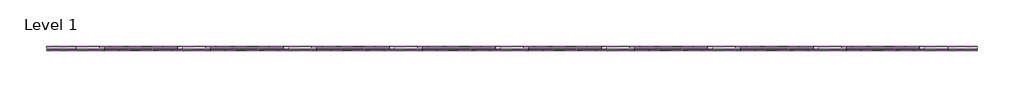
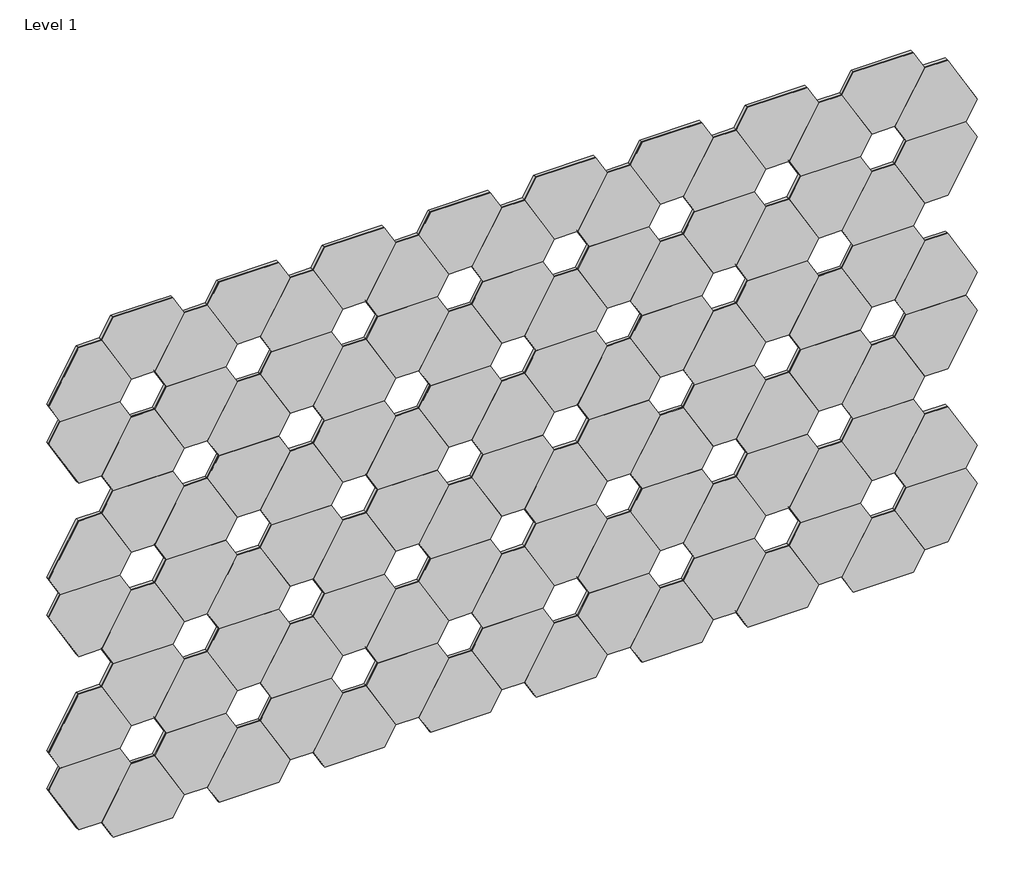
# One storey: 102 proxies.
"""IFC4 building model written with IfcOpenShell, lengths in millimetres."""

from ifc_helpers import new_model, si_unit, origin, place, context, project, spatial, transform, mapped, element, save
from components import aro_block_2_8349c359

model = new_model("IFC4")

# Units and contexts
model_context = context("Model", 3, world=origin())
ifc_project = project(units=[si_unit("LENGTHUNIT", "METRE", prefix="MILLI")], contexts=[model_context])

# Site, building, storey
site = spatial("IfcSite", under=ifc_project)
building = spatial("IfcBuilding", under=site)
storey = spatial("IfcBuildingStorey", under=building, Name="Level 1", Elevation=0.0)

# Proxies
placement = place(None, origin())
aro_block_2_shape = aro_block_2_8349c359(model_context)
element("IfcBuildingElementProxy", 1, Name="FilzFelt_ARO_Block 2 : ARO Block 2", ObjectType="FilzFelt_ARO_Block 2 : ARO Block 2", at=placement, inside=storey, context=model_context, shape_type="MappedRepresentation", body=[
    mapped(aro_block_2_shape, transform((-13791.0652095, -3152.3339335, 834.4368478), x_axis=(-1.0, 0.0, 0.0), y_axis=(0.0, 0.0, -1.0), z_axis=(0.0, -1.0, 0.0))),
])
element("IfcBuildingElementProxy", 2, Name="FilzFelt_ARO_Block 2 : ARO Block 2", ObjectType="FilzFelt_ARO_Block 2 : ARO Block 2", at=placement, inside=storey, context=model_context, shape_type="MappedRepresentation", body=[
    mapped(aro_block_2_shape, transform((-13617.4823723, -3152.3339335, 1135.0911412), x_axis=(-1.0, 0.0, 0.0), y_axis=(0.0, 0.0, -1.0), z_axis=(0.0, -1.0, 0.0))),
])
element("IfcBuildingElementProxy", 3, Name="FilzFelt_ARO_Block 2 : ARO Block 2", ObjectType="FilzFelt_ARO_Block 2 : ARO Block 2", at=placement, inside=storey, context=model_context, shape_type="MappedRepresentation", body=[
    mapped(aro_block_2_shape, transform((-13443.899535, -3152.3339335, 834.4368478), x_axis=(-1.0, 0.0, 0.0), y_axis=(0.0, 0.0, -1.0), z_axis=(0.0, -1.0, 0.0))),
])
element("IfcBuildingElementProxy", 4, Name="FilzFelt_ARO_Block 2 : ARO Block 2", ObjectType="FilzFelt_ARO_Block 2 : ARO Block 2", at=placement, inside=storey, context=model_context, shape_type="MappedRepresentation", body=[
    mapped(aro_block_2_shape, transform((-13270.3166978, -3152.3339335, 1135.0911412), x_axis=(-1.0, 0.0, 0.0), y_axis=(0.0, 0.0, -1.0), z_axis=(0.0, -1.0, 0.0))),
])
element("IfcBuildingElementProxy", 5, Name="FilzFelt_ARO_Block 2 : ARO Block 2", ObjectType="FilzFelt_ARO_Block 2 : ARO Block 2", at=placement, inside=storey, context=model_context, shape_type="MappedRepresentation", body=[
    mapped(aro_block_2_shape, transform((-13443.899535, -3152.3339335, 1435.7454346), x_axis=(-1.0, 0.0, 0.0), y_axis=(0.0, 0.0, -1.0), z_axis=(0.0, -1.0, 0.0))),
])
element("IfcBuildingElementProxy", 6, Name="FilzFelt_ARO_Block 2 : ARO Block 2", ObjectType="FilzFelt_ARO_Block 2 : ARO Block 2", at=placement, inside=storey, context=model_context, shape_type="MappedRepresentation", body=[
    mapped(aro_block_2_shape, transform((-13791.0652095, -3152.3339335, 1435.7454346), x_axis=(-1.0, 0.0, 0.0), y_axis=(0.0, 0.0, -1.0), z_axis=(0.0, -1.0, 0.0))),
])
element("IfcBuildingElementProxy", 7, Name="FilzFelt_ARO_Block 2 : ARO Block 2", ObjectType="FilzFelt_ARO_Block 2 : ARO Block 2", at=placement, inside=storey, context=model_context, shape_type="MappedRepresentation", body=[
    mapped(aro_block_2_shape, transform((-13617.4823723, -3152.3339335, 1736.3997281), x_axis=(-1.0, 0.0, 0.0), y_axis=(0.0, 0.0, -1.0), z_axis=(0.0, -1.0, 0.0))),
])
element("IfcBuildingElementProxy", 8, Name="FilzFelt_ARO_Block 2 : ARO Block 2", ObjectType="FilzFelt_ARO_Block 2 : ARO Block 2", at=placement, inside=storey, context=model_context, shape_type="MappedRepresentation", body=[
    mapped(aro_block_2_shape, transform((-13270.3166978, -3152.3339335, 1736.3997281), x_axis=(-1.0, 0.0, 0.0), y_axis=(0.0, 0.0, -1.0), z_axis=(0.0, -1.0, 0.0))),
])
element("IfcBuildingElementProxy", 9, Name="FilzFelt_ARO_Block 2 : ARO Block 2", ObjectType="FilzFelt_ARO_Block 2 : ARO Block 2", at=placement, inside=storey, context=model_context, shape_type="MappedRepresentation", body=[
    mapped(aro_block_2_shape, transform((-13791.0652095, -3152.3339335, 2037.0540215), x_axis=(-1.0, 0.0, 0.0), y_axis=(0.0, 0.0, -1.0), z_axis=(0.0, -1.0, 0.0))),
])
element("IfcBuildingElementProxy", 10, Name="FilzFelt_ARO_Block 2 : ARO Block 2", ObjectType="FilzFelt_ARO_Block 2 : ARO Block 2", at=placement, inside=storey, context=model_context, shape_type="MappedRepresentation", body=[
    mapped(aro_block_2_shape, transform((-13617.4823723, -3152.3339335, 2337.7083149), x_axis=(-1.0, 0.0, 0.0), y_axis=(0.0, 0.0, -1.0), z_axis=(0.0, -1.0, 0.0))),
])
element("IfcBuildingElementProxy", 11, Name="FilzFelt_ARO_Block 2 : ARO Block 2", ObjectType="FilzFelt_ARO_Block 2 : ARO Block 2", at=placement, inside=storey, context=model_context, shape_type="MappedRepresentation", body=[
    mapped(aro_block_2_shape, transform((-13443.899535, -3152.3339335, 2037.0540215), x_axis=(-1.0, 0.0, 0.0), y_axis=(0.0, 0.0, -1.0), z_axis=(0.0, -1.0, 0.0))),
])
element("IfcBuildingElementProxy", 12, Name="FilzFelt_ARO_Block 2 : ARO Block 2", ObjectType="FilzFelt_ARO_Block 2 : ARO Block 2", at=placement, inside=storey, context=model_context, shape_type="MappedRepresentation", body=[
    mapped(aro_block_2_shape, transform((-13270.3166978, -3152.3339335, 2337.7083149), x_axis=(-1.0, 0.0, 0.0), y_axis=(0.0, 0.0, -1.0), z_axis=(0.0, -1.0, 0.0))),
])
element("IfcBuildingElementProxy", 13, Name="FilzFelt_ARO_Block 2 : ARO Block 2", ObjectType="FilzFelt_ARO_Block 2 : ARO Block 2", at=placement, inside=storey, context=model_context, shape_type="MappedRepresentation", body=[
    mapped(aro_block_2_shape, transform((-13096.7338606, -3152.3339335, 1435.7454346), x_axis=(-1.0, 0.0, 0.0), y_axis=(0.0, 0.0, -1.0), z_axis=(0.0, -1.0, 0.0))),
])
element("IfcBuildingElementProxy", 14, Name="FilzFelt_ARO_Block 2 : ARO Block 2", ObjectType="FilzFelt_ARO_Block 2 : ARO Block 2", at=placement, inside=storey, context=model_context, shape_type="MappedRepresentation", body=[
    mapped(aro_block_2_shape, transform((-13096.7338606, -3152.3339335, 2037.0540215), x_axis=(-1.0, 0.0, 0.0), y_axis=(0.0, 0.0, -1.0), z_axis=(0.0, -1.0, 0.0))),
])
element("IfcBuildingElementProxy", 15, Name="FilzFelt_ARO_Block 2 : ARO Block 2", ObjectType="FilzFelt_ARO_Block 2 : ARO Block 2", at=placement, inside=storey, context=model_context, shape_type="MappedRepresentation", body=[
    mapped(aro_block_2_shape, transform((-13096.7338606, -3152.3339335, 834.4368478), x_axis=(-1.0, 0.0, 0.0), y_axis=(0.0, 0.0, -1.0), z_axis=(0.0, -1.0, 0.0))),
])
element("IfcBuildingElementProxy", 16, Name="FilzFelt_ARO_Block 2 : ARO Block 2", ObjectType="FilzFelt_ARO_Block 2 : ARO Block 2", at=placement, inside=storey, context=model_context, shape_type="MappedRepresentation", body=[
    mapped(aro_block_2_shape, transform((-12923.1510233, -3152.3339335, 2337.7083149), x_axis=(-1.0, 0.0, 0.0), y_axis=(0.0, 0.0, -1.0), z_axis=(0.0, -1.0, 0.0))),
])
element("IfcBuildingElementProxy", 17, Name="FilzFelt_ARO_Block 2 : ARO Block 2", ObjectType="FilzFelt_ARO_Block 2 : ARO Block 2", at=placement, inside=storey, context=model_context, shape_type="MappedRepresentation", body=[
    mapped(aro_block_2_shape, transform((-12749.5681861, -3152.3339335, 2037.0540215), x_axis=(-1.0, 0.0, 0.0), y_axis=(0.0, 0.0, -1.0), z_axis=(0.0, -1.0, 0.0))),
])
element("IfcBuildingElementProxy", 18, Name="FilzFelt_ARO_Block 2 : ARO Block 2", ObjectType="FilzFelt_ARO_Block 2 : ARO Block 2", at=placement, inside=storey, context=model_context, shape_type="MappedRepresentation", body=[
    mapped(aro_block_2_shape, transform((-12923.1510233, -3152.3339335, 1736.3997281), x_axis=(-1.0, 0.0, 0.0), y_axis=(0.0, 0.0, -1.0), z_axis=(0.0, -1.0, 0.0))),
])
element("IfcBuildingElementProxy", 19, Name="FilzFelt_ARO_Block 2 : ARO Block 2", ObjectType="FilzFelt_ARO_Block 2 : ARO Block 2", at=placement, inside=storey, context=model_context, shape_type="MappedRepresentation", body=[
    mapped(aro_block_2_shape, transform((-12749.5681861, -3152.3339335, 1435.7454346), x_axis=(-1.0, 0.0, 0.0), y_axis=(0.0, 0.0, -1.0), z_axis=(0.0, -1.0, 0.0))),
])
element("IfcBuildingElementProxy", 20, Name="FilzFelt_ARO_Block 2 : ARO Block 2", ObjectType="FilzFelt_ARO_Block 2 : ARO Block 2", at=placement, inside=storey, context=model_context, shape_type="MappedRepresentation", body=[
    mapped(aro_block_2_shape, transform((-12923.1510233, -3152.3339335, 1135.0911412), x_axis=(-1.0, 0.0, 0.0), y_axis=(0.0, 0.0, -1.0), z_axis=(0.0, -1.0, 0.0))),
])
element("IfcBuildingElementProxy", 21, Name="FilzFelt_ARO_Block 2 : ARO Block 2", ObjectType="FilzFelt_ARO_Block 2 : ARO Block 2", at=placement, inside=storey, context=model_context, shape_type="MappedRepresentation", body=[
    mapped(aro_block_2_shape, transform((-12749.5681861, -3152.3339335, 834.4368478), x_axis=(-1.0, 0.0, 0.0), y_axis=(0.0, 0.0, -1.0), z_axis=(0.0, -1.0, 0.0))),
])
element("IfcBuildingElementProxy", 22, Name="FilzFelt_ARO_Block 2 : ARO Block 2", ObjectType="FilzFelt_ARO_Block 2 : ARO Block 2", at=placement, inside=storey, context=model_context, shape_type="MappedRepresentation", body=[
    mapped(aro_block_2_shape, transform((-12575.9853489, -3152.3339335, 1135.0911412), x_axis=(-1.0, 0.0, 0.0), y_axis=(0.0, 0.0, -1.0), z_axis=(0.0, -1.0, 0.0))),
])
element("IfcBuildingElementProxy", 23, Name="FilzFelt_ARO_Block 2 : ARO Block 2", ObjectType="FilzFelt_ARO_Block 2 : ARO Block 2", at=placement, inside=storey, context=model_context, shape_type="MappedRepresentation", body=[
    mapped(aro_block_2_shape, transform((-12575.9853489, -3152.3339335, 1736.3997281), x_axis=(-1.0, 0.0, 0.0), y_axis=(0.0, 0.0, -1.0), z_axis=(0.0, -1.0, 0.0))),
])
element("IfcBuildingElementProxy", 24, Name="FilzFelt_ARO_Block 2 : ARO Block 2", ObjectType="FilzFelt_ARO_Block 2 : ARO Block 2", at=placement, inside=storey, context=model_context, shape_type="MappedRepresentation", body=[
    mapped(aro_block_2_shape, transform((-12575.9853489, -3152.3339335, 2337.7083149), x_axis=(-1.0, 0.0, 0.0), y_axis=(0.0, 0.0, -1.0), z_axis=(0.0, -1.0, 0.0))),
])
element("IfcBuildingElementProxy", 25, Name="FilzFelt_ARO_Block 2 : ARO Block 2", ObjectType="FilzFelt_ARO_Block 2 : ARO Block 2", at=placement, inside=storey, context=model_context, shape_type="MappedRepresentation", body=[
    mapped(aro_block_2_shape, transform((-12402.4025116, -3152.3339335, 834.4368478), x_axis=(-1.0, 0.0, 0.0), y_axis=(0.0, 0.0, -1.0), z_axis=(0.0, -1.0, 0.0))),
])
element("IfcBuildingElementProxy", 26, Name="FilzFelt_ARO_Block 2 : ARO Block 2", ObjectType="FilzFelt_ARO_Block 2 : ARO Block 2", at=placement, inside=storey, context=model_context, shape_type="MappedRepresentation", body=[
    mapped(aro_block_2_shape, transform((-12228.8196744, -3152.3339335, 1135.0911412), x_axis=(-1.0, 0.0, 0.0), y_axis=(0.0, 0.0, -1.0), z_axis=(0.0, -1.0, 0.0))),
])
element("IfcBuildingElementProxy", 27, Name="FilzFelt_ARO_Block 2 : ARO Block 2", ObjectType="FilzFelt_ARO_Block 2 : ARO Block 2", at=placement, inside=storey, context=model_context, shape_type="MappedRepresentation", body=[
    mapped(aro_block_2_shape, transform((-12055.2368371, -3152.3339335, 834.4368478), x_axis=(-1.0, 0.0, 0.0), y_axis=(0.0, 0.0, -1.0), z_axis=(0.0, -1.0, 0.0))),
])
element("IfcBuildingElementProxy", 28, Name="FilzFelt_ARO_Block 2 : ARO Block 2", ObjectType="FilzFelt_ARO_Block 2 : ARO Block 2", at=placement, inside=storey, context=model_context, shape_type="MappedRepresentation", body=[
    mapped(aro_block_2_shape, transform((-11881.6539999, -3152.3339335, 1135.0911412), x_axis=(-1.0, 0.0, 0.0), y_axis=(0.0, 0.0, -1.0), z_axis=(0.0, -1.0, 0.0))),
])
element("IfcBuildingElementProxy", 29, Name="FilzFelt_ARO_Block 2 : ARO Block 2", ObjectType="FilzFelt_ARO_Block 2 : ARO Block 2", at=placement, inside=storey, context=model_context, shape_type="MappedRepresentation", body=[
    mapped(aro_block_2_shape, transform((-12055.2368371, -3152.3339335, 1435.7454346), x_axis=(-1.0, 0.0, 0.0), y_axis=(0.0, 0.0, -1.0), z_axis=(0.0, -1.0, 0.0))),
])
element("IfcBuildingElementProxy", 30, Name="FilzFelt_ARO_Block 2 : ARO Block 2", ObjectType="FilzFelt_ARO_Block 2 : ARO Block 2", at=placement, inside=storey, context=model_context, shape_type="MappedRepresentation", body=[
    mapped(aro_block_2_shape, transform((-12402.4025116, -3152.3339335, 1435.7454346), x_axis=(-1.0, 0.0, 0.0), y_axis=(0.0, 0.0, -1.0), z_axis=(0.0, -1.0, 0.0))),
])
element("IfcBuildingElementProxy", 31, Name="FilzFelt_ARO_Block 2 : ARO Block 2", ObjectType="FilzFelt_ARO_Block 2 : ARO Block 2", at=placement, inside=storey, context=model_context, shape_type="MappedRepresentation", body=[
    mapped(aro_block_2_shape, transform((-12228.8196744, -3152.3339335, 1736.3997281), x_axis=(-1.0, 0.0, 0.0), y_axis=(0.0, 0.0, -1.0), z_axis=(0.0, -1.0, 0.0))),
])
element("IfcBuildingElementProxy", 32, Name="FilzFelt_ARO_Block 2 : ARO Block 2", ObjectType="FilzFelt_ARO_Block 2 : ARO Block 2", at=placement, inside=storey, context=model_context, shape_type="MappedRepresentation", body=[
    mapped(aro_block_2_shape, transform((-11881.6539999, -3152.3339335, 1736.3997281), x_axis=(-1.0, 0.0, 0.0), y_axis=(0.0, 0.0, -1.0), z_axis=(0.0, -1.0, 0.0))),
])
element("IfcBuildingElementProxy", 33, Name="FilzFelt_ARO_Block 2 : ARO Block 2", ObjectType="FilzFelt_ARO_Block 2 : ARO Block 2", at=placement, inside=storey, context=model_context, shape_type="MappedRepresentation", body=[
    mapped(aro_block_2_shape, transform((-12402.4025116, -3152.3339335, 2037.0540215), x_axis=(-1.0, 0.0, 0.0), y_axis=(0.0, 0.0, -1.0), z_axis=(0.0, -1.0, 0.0))),
])
element("IfcBuildingElementProxy", 34, Name="FilzFelt_ARO_Block 2 : ARO Block 2", ObjectType="FilzFelt_ARO_Block 2 : ARO Block 2", at=placement, inside=storey, context=model_context, shape_type="MappedRepresentation", body=[
    mapped(aro_block_2_shape, transform((-12228.8196744, -3152.3339335, 2337.7083149), x_axis=(-1.0, 0.0, 0.0), y_axis=(0.0, 0.0, -1.0), z_axis=(0.0, -1.0, 0.0))),
])
element("IfcBuildingElementProxy", 35, Name="FilzFelt_ARO_Block 2 : ARO Block 2", ObjectType="FilzFelt_ARO_Block 2 : ARO Block 2", at=placement, inside=storey, context=model_context, shape_type="MappedRepresentation", body=[
    mapped(aro_block_2_shape, transform((-12055.2368371, -3152.3339335, 2037.0540215), x_axis=(-1.0, 0.0, 0.0), y_axis=(0.0, 0.0, -1.0), z_axis=(0.0, -1.0, 0.0))),
])
element("IfcBuildingElementProxy", 36, Name="FilzFelt_ARO_Block 2 : ARO Block 2", ObjectType="FilzFelt_ARO_Block 2 : ARO Block 2", at=placement, inside=storey, context=model_context, shape_type="MappedRepresentation", body=[
    mapped(aro_block_2_shape, transform((-11881.6539999, -3152.3339335, 2337.7083149), x_axis=(-1.0, 0.0, 0.0), y_axis=(0.0, 0.0, -1.0), z_axis=(0.0, -1.0, 0.0))),
])
element("IfcBuildingElementProxy", 37, Name="FilzFelt_ARO_Block 2 : ARO Block 2", ObjectType="FilzFelt_ARO_Block 2 : ARO Block 2", at=placement, inside=storey, context=model_context, shape_type="MappedRepresentation", body=[
    mapped(aro_block_2_shape, transform((-11708.0711627, -3152.3339335, 1435.7454346), x_axis=(-1.0, 0.0, 0.0), y_axis=(0.0, 0.0, -1.0), z_axis=(0.0, -1.0, 0.0))),
])
element("IfcBuildingElementProxy", 38, Name="FilzFelt_ARO_Block 2 : ARO Block 2", ObjectType="FilzFelt_ARO_Block 2 : ARO Block 2", at=placement, inside=storey, context=model_context, shape_type="MappedRepresentation", body=[
    mapped(aro_block_2_shape, transform((-11708.0711627, -3152.3339335, 2037.0540215), x_axis=(-1.0, 0.0, 0.0), y_axis=(0.0, 0.0, -1.0), z_axis=(0.0, -1.0, 0.0))),
])
element("IfcBuildingElementProxy", 39, Name="FilzFelt_ARO_Block 2 : ARO Block 2", ObjectType="FilzFelt_ARO_Block 2 : ARO Block 2", at=placement, inside=storey, context=model_context, shape_type="MappedRepresentation", body=[
    mapped(aro_block_2_shape, transform((-11708.0711627, -3152.3339335, 834.4368478), x_axis=(-1.0, 0.0, 0.0), y_axis=(0.0, 0.0, -1.0), z_axis=(0.0, -1.0, 0.0))),
])
element("IfcBuildingElementProxy", 40, Name="FilzFelt_ARO_Block 2 : ARO Block 2", ObjectType="FilzFelt_ARO_Block 2 : ARO Block 2", at=placement, inside=storey, context=model_context, shape_type="MappedRepresentation", body=[
    mapped(aro_block_2_shape, transform((-11534.4883254, -3152.3339335, 2337.7083149), x_axis=(-1.0, 0.0, 0.0), y_axis=(0.0, 0.0, -1.0), z_axis=(0.0, -1.0, 0.0))),
])
element("IfcBuildingElementProxy", 41, Name="FilzFelt_ARO_Block 2 : ARO Block 2", ObjectType="FilzFelt_ARO_Block 2 : ARO Block 2", at=placement, inside=storey, context=model_context, shape_type="MappedRepresentation", body=[
    mapped(aro_block_2_shape, transform((-11360.9054882, -3152.3339335, 2037.0540215), x_axis=(-1.0, 0.0, 0.0), y_axis=(0.0, 0.0, -1.0), z_axis=(0.0, -1.0, 0.0))),
])
element("IfcBuildingElementProxy", 42, Name="FilzFelt_ARO_Block 2 : ARO Block 2", ObjectType="FilzFelt_ARO_Block 2 : ARO Block 2", at=placement, inside=storey, context=model_context, shape_type="MappedRepresentation", body=[
    mapped(aro_block_2_shape, transform((-11534.4883254, -3152.3339335, 1736.3997281), x_axis=(-1.0, 0.0, 0.0), y_axis=(0.0, 0.0, -1.0), z_axis=(0.0, -1.0, 0.0))),
])
element("IfcBuildingElementProxy", 43, Name="FilzFelt_ARO_Block 2 : ARO Block 2", ObjectType="FilzFelt_ARO_Block 2 : ARO Block 2", at=placement, inside=storey, context=model_context, shape_type="MappedRepresentation", body=[
    mapped(aro_block_2_shape, transform((-11360.9054882, -3152.3339335, 1435.7454346), x_axis=(-1.0, 0.0, 0.0), y_axis=(0.0, 0.0, -1.0), z_axis=(0.0, -1.0, 0.0))),
])
element("IfcBuildingElementProxy", 44, Name="FilzFelt_ARO_Block 2 : ARO Block 2", ObjectType="FilzFelt_ARO_Block 2 : ARO Block 2", at=placement, inside=storey, context=model_context, shape_type="MappedRepresentation", body=[
    mapped(aro_block_2_shape, transform((-11534.4883254, -3152.3339335, 1135.0911412), x_axis=(-1.0, 0.0, 0.0), y_axis=(0.0, 0.0, -1.0), z_axis=(0.0, -1.0, 0.0))),
])
element("IfcBuildingElementProxy", 45, Name="FilzFelt_ARO_Block 2 : ARO Block 2", ObjectType="FilzFelt_ARO_Block 2 : ARO Block 2", at=placement, inside=storey, context=model_context, shape_type="MappedRepresentation", body=[
    mapped(aro_block_2_shape, transform((-11360.9054882, -3152.3339335, 834.4368478), x_axis=(-1.0, 0.0, 0.0), y_axis=(0.0, 0.0, -1.0), z_axis=(0.0, -1.0, 0.0))),
])
element("IfcBuildingElementProxy", 46, Name="FilzFelt_ARO_Block 2 : ARO Block 2", ObjectType="FilzFelt_ARO_Block 2 : ARO Block 2", at=placement, inside=storey, context=model_context, shape_type="MappedRepresentation", body=[
    mapped(aro_block_2_shape, transform((-11187.3226509, -3152.3339335, 1135.0911412), x_axis=(-1.0, 0.0, 0.0), y_axis=(0.0, 0.0, -1.0), z_axis=(0.0, -1.0, 0.0))),
])
element("IfcBuildingElementProxy", 47, Name="FilzFelt_ARO_Block 2 : ARO Block 2", ObjectType="FilzFelt_ARO_Block 2 : ARO Block 2", at=placement, inside=storey, context=model_context, shape_type="MappedRepresentation", body=[
    mapped(aro_block_2_shape, transform((-11187.3226509, -3152.3339335, 1736.3997281), x_axis=(-1.0, 0.0, 0.0), y_axis=(0.0, 0.0, -1.0), z_axis=(0.0, -1.0, 0.0))),
])
element("IfcBuildingElementProxy", 48, Name="FilzFelt_ARO_Block 2 : ARO Block 2", ObjectType="FilzFelt_ARO_Block 2 : ARO Block 2", at=placement, inside=storey, context=model_context, shape_type="MappedRepresentation", body=[
    mapped(aro_block_2_shape, transform((-11187.3226509, -3152.3339335, 2337.7083149), x_axis=(-1.0, 0.0, 0.0), y_axis=(0.0, 0.0, -1.0), z_axis=(0.0, -1.0, 0.0))),
])
element("IfcBuildingElementProxy", 49, Name="FilzFelt_ARO_Block 2 : ARO Block 2", ObjectType="FilzFelt_ARO_Block 2 : ARO Block 2", at=placement, inside=storey, context=model_context, shape_type="MappedRepresentation", body=[
    mapped(aro_block_2_shape, transform((-11013.7398137, -3152.3339335, 2037.0540215), x_axis=(-1.0, 0.0, 0.0), y_axis=(0.0, 0.0, -1.0), z_axis=(0.0, -1.0, 0.0))),
])
element("IfcBuildingElementProxy", 50, Name="FilzFelt_ARO_Block 2 : ARO Block 2", ObjectType="FilzFelt_ARO_Block 2 : ARO Block 2", at=placement, inside=storey, context=model_context, shape_type="MappedRepresentation", body=[
    mapped(aro_block_2_shape, transform((-11013.7398137, -3152.3339335, 1435.7454346), x_axis=(-1.0, 0.0, 0.0), y_axis=(0.0, 0.0, -1.0), z_axis=(0.0, -1.0, 0.0))),
])
element("IfcBuildingElementProxy", 51, Name="FilzFelt_ARO_Block 2 : ARO Block 2", ObjectType="FilzFelt_ARO_Block 2 : ARO Block 2", at=placement, inside=storey, context=model_context, shape_type="MappedRepresentation", body=[
    mapped(aro_block_2_shape, transform((-11013.7398137, -3152.3339335, 834.4368478), x_axis=(-1.0, 0.0, 0.0), y_axis=(0.0, 0.0, -1.0), z_axis=(0.0, -1.0, 0.0))),
])
element("IfcBuildingElementProxy", 52, Name="FilzFelt_ARO_Block 2 : ARO Block 2", ObjectType="FilzFelt_ARO_Block 2 : ARO Block 2", at=placement, inside=storey, context=model_context, shape_type="MappedRepresentation", body=[
    mapped(aro_block_2_shape, transform((-13617.4823723, -3152.3339335, 734.21875), x_axis=(1.0, 0.0, 0.0), y_axis=(0.0, 0.0, 1.0), z_axis=(0.0, -1.0, 0.0))),
])
element("IfcBuildingElementProxy", 53, Name="FilzFelt_ARO_Block 2 : ARO Block 2", ObjectType="FilzFelt_ARO_Block 2 : ARO Block 2", at=placement, inside=storey, context=model_context, shape_type="MappedRepresentation", body=[
    mapped(aro_block_2_shape, transform((-13791.0652095, -3152.3339335, 1034.8730434), x_axis=(1.0, 0.0, 0.0), y_axis=(0.0, 0.0, 1.0), z_axis=(0.0, -1.0, 0.0))),
])
element("IfcBuildingElementProxy", 54, Name="FilzFelt_ARO_Block 2 : ARO Block 2", ObjectType="FilzFelt_ARO_Block 2 : ARO Block 2", at=placement, inside=storey, context=model_context, shape_type="MappedRepresentation", body=[
    mapped(aro_block_2_shape, transform((-13443.899535, -3152.3339335, 1034.8730434), x_axis=(1.0, 0.0, 0.0), y_axis=(0.0, 0.0, 1.0), z_axis=(0.0, -1.0, 0.0))),
])
element("IfcBuildingElementProxy", 55, Name="FilzFelt_ARO_Block 2 : ARO Block 2", ObjectType="FilzFelt_ARO_Block 2 : ARO Block 2", at=placement, inside=storey, context=model_context, shape_type="MappedRepresentation", body=[
    mapped(aro_block_2_shape, transform((-13617.4823723, -3152.3339335, 1335.5273368), x_axis=(1.0, 0.0, 0.0), y_axis=(0.0, 0.0, 1.0), z_axis=(0.0, -1.0, 0.0))),
])
element("IfcBuildingElementProxy", 56, Name="FilzFelt_ARO_Block 2 : ARO Block 2", ObjectType="FilzFelt_ARO_Block 2 : ARO Block 2", at=placement, inside=storey, context=model_context, shape_type="MappedRepresentation", body=[
    mapped(aro_block_2_shape, transform((-13270.3166978, -3152.3339335, 1335.5273368), x_axis=(1.0, 0.0, 0.0), y_axis=(0.0, 0.0, 1.0), z_axis=(0.0, -1.0, 0.0))),
])
element("IfcBuildingElementProxy", 57, Name="FilzFelt_ARO_Block 2 : ARO Block 2", ObjectType="FilzFelt_ARO_Block 2 : ARO Block 2", at=placement, inside=storey, context=model_context, shape_type="MappedRepresentation", body=[
    mapped(aro_block_2_shape, transform((-13270.3166978, -3152.3339335, 734.21875), x_axis=(1.0, 0.0, 0.0), y_axis=(0.0, 0.0, 1.0), z_axis=(0.0, -1.0, 0.0))),
])
element("IfcBuildingElementProxy", 58, Name="FilzFelt_ARO_Block 2 : ARO Block 2", ObjectType="FilzFelt_ARO_Block 2 : ARO Block 2", at=placement, inside=storey, context=model_context, shape_type="MappedRepresentation", body=[
    mapped(aro_block_2_shape, transform((-13791.0652095, -3152.3339335, 1636.1816303), x_axis=(1.0, 0.0, 0.0), y_axis=(0.0, 0.0, 1.0), z_axis=(0.0, -1.0, 0.0))),
])
element("IfcBuildingElementProxy", 59, Name="FilzFelt_ARO_Block 2 : ARO Block 2", ObjectType="FilzFelt_ARO_Block 2 : ARO Block 2", at=placement, inside=storey, context=model_context, shape_type="MappedRepresentation", body=[
    mapped(aro_block_2_shape, transform((-13443.899535, -3152.3339335, 1636.1816303), x_axis=(1.0, 0.0, 0.0), y_axis=(0.0, 0.0, 1.0), z_axis=(0.0, -1.0, 0.0))),
])
element("IfcBuildingElementProxy", 60, Name="FilzFelt_ARO_Block 2 : ARO Block 2", ObjectType="FilzFelt_ARO_Block 2 : ARO Block 2", at=placement, inside=storey, context=model_context, shape_type="MappedRepresentation", body=[
    mapped(aro_block_2_shape, transform((-13617.4823723, -3152.3339335, 1936.8359237), x_axis=(1.0, 0.0, 0.0), y_axis=(0.0, 0.0, 1.0), z_axis=(0.0, -1.0, 0.0))),
])
element("IfcBuildingElementProxy", 61, Name="FilzFelt_ARO_Block 2 : ARO Block 2", ObjectType="FilzFelt_ARO_Block 2 : ARO Block 2", at=placement, inside=storey, context=model_context, shape_type="MappedRepresentation", body=[
    mapped(aro_block_2_shape, transform((-13791.0652095, -3152.3339335, 2237.4902171), x_axis=(1.0, 0.0, 0.0), y_axis=(0.0, 0.0, 1.0), z_axis=(0.0, -1.0, 0.0))),
])
element("IfcBuildingElementProxy", 62, Name="FilzFelt_ARO_Block 2 : ARO Block 2", ObjectType="FilzFelt_ARO_Block 2 : ARO Block 2", at=placement, inside=storey, context=model_context, shape_type="MappedRepresentation", body=[
    mapped(aro_block_2_shape, transform((-13443.899535, -3152.3339335, 2237.4902171), x_axis=(1.0, 0.0, 0.0), y_axis=(0.0, 0.0, 1.0), z_axis=(0.0, -1.0, 0.0))),
])
element("IfcBuildingElementProxy", 63, Name="FilzFelt_ARO_Block 2 : ARO Block 2", ObjectType="FilzFelt_ARO_Block 2 : ARO Block 2", at=placement, inside=storey, context=model_context, shape_type="MappedRepresentation", body=[
    mapped(aro_block_2_shape, transform((-13270.3166978, -3152.3339335, 1936.8359237), x_axis=(1.0, 0.0, 0.0), y_axis=(0.0, 0.0, 1.0), z_axis=(0.0, -1.0, 0.0))),
])
element("IfcBuildingElementProxy", 64, Name="FilzFelt_ARO_Block 2 : ARO Block 2", ObjectType="FilzFelt_ARO_Block 2 : ARO Block 2", at=placement, inside=storey, context=model_context, shape_type="MappedRepresentation", body=[
    mapped(aro_block_2_shape, transform((-13096.7338606, -3152.3339335, 2237.4902171), x_axis=(1.0, 0.0, 0.0), y_axis=(0.0, 0.0, 1.0), z_axis=(0.0, -1.0, 0.0))),
])
element("IfcBuildingElementProxy", 65, Name="FilzFelt_ARO_Block 2 : ARO Block 2", ObjectType="FilzFelt_ARO_Block 2 : ARO Block 2", at=placement, inside=storey, context=model_context, shape_type="MappedRepresentation", body=[
    mapped(aro_block_2_shape, transform((-13096.7338606, -3152.3339335, 1636.1816303), x_axis=(1.0, 0.0, 0.0), y_axis=(0.0, 0.0, 1.0), z_axis=(0.0, -1.0, 0.0))),
])
element("IfcBuildingElementProxy", 66, Name="FilzFelt_ARO_Block 2 : ARO Block 2", ObjectType="FilzFelt_ARO_Block 2 : ARO Block 2", at=placement, inside=storey, context=model_context, shape_type="MappedRepresentation", body=[
    mapped(aro_block_2_shape, transform((-13096.7338606, -3152.3339335, 1034.8730434), x_axis=(1.0, 0.0, 0.0), y_axis=(0.0, 0.0, 1.0), z_axis=(0.0, -1.0, 0.0))),
])
element("IfcBuildingElementProxy", 67, Name="FilzFelt_ARO_Block 2 : ARO Block 2", ObjectType="FilzFelt_ARO_Block 2 : ARO Block 2", at=placement, inside=storey, context=model_context, shape_type="MappedRepresentation", body=[
    mapped(aro_block_2_shape, transform((-12923.1510233, -3152.3339335, 1335.5273368), x_axis=(-0.5000000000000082, 0.0, -0.8660254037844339), y_axis=(0.8660254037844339, 0.0, -0.5000000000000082), z_axis=(0.0, -1.0, 0.0))),
])
element("IfcBuildingElementProxy", 68, Name="FilzFelt_ARO_Block 2 : ARO Block 2", ObjectType="FilzFelt_ARO_Block 2 : ARO Block 2", at=placement, inside=storey, context=model_context, shape_type="MappedRepresentation", body=[
    mapped(aro_block_2_shape, transform((-12923.1510233, -3152.3339335, 1936.8359237), x_axis=(-0.5000000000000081, 0.0, -0.866025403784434), y_axis=(0.866025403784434, 0.0, -0.5000000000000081), z_axis=(0.0, -1.0, 0.0))),
])
element("IfcBuildingElementProxy", 69, Name="FilzFelt_ARO_Block 2 : ARO Block 2", ObjectType="FilzFelt_ARO_Block 2 : ARO Block 2", at=placement, inside=storey, context=model_context, shape_type="MappedRepresentation", body=[
    mapped(aro_block_2_shape, transform((-12923.1510233, -3152.3339335, 734.21875), x_axis=(-0.5000000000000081, 0.0, -0.866025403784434), y_axis=(0.866025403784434, 0.0, -0.5000000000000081), z_axis=(0.0, -1.0, 0.0))),
])
element("IfcBuildingElementProxy", 70, Name="FilzFelt_ARO_Block 2 : ARO Block 2", ObjectType="FilzFelt_ARO_Block 2 : ARO Block 2", at=placement, inside=storey, context=model_context, shape_type="MappedRepresentation", body=[
    mapped(aro_block_2_shape, transform((-12749.5681861, -3152.3339335, 1034.8730434), x_axis=(1.0, 0.0, 0.0), y_axis=(0.0, 0.0, 1.0), z_axis=(0.0, -1.0, 0.0))),
])
element("IfcBuildingElementProxy", 71, Name="FilzFelt_ARO_Block 2 : ARO Block 2", ObjectType="FilzFelt_ARO_Block 2 : ARO Block 2", at=placement, inside=storey, context=model_context, shape_type="MappedRepresentation", body=[
    mapped(aro_block_2_shape, transform((-12749.5681861, -3152.3339335, 1636.1816303), x_axis=(1.0, 0.0, 0.0), y_axis=(0.0, 0.0, 1.0), z_axis=(0.0, -1.0, 0.0))),
])
element("IfcBuildingElementProxy", 72, Name="FilzFelt_ARO_Block 2 : ARO Block 2", ObjectType="FilzFelt_ARO_Block 2 : ARO Block 2", at=placement, inside=storey, context=model_context, shape_type="MappedRepresentation", body=[
    mapped(aro_block_2_shape, transform((-12749.5681861, -3152.3339335, 2237.4902171), x_axis=(1.0, 0.0, 0.0), y_axis=(0.0, 0.0, 1.0), z_axis=(0.0, -1.0, 0.0))),
])
element("IfcBuildingElementProxy", 73, Name="FilzFelt_ARO_Block 2 : ARO Block 2", ObjectType="FilzFelt_ARO_Block 2 : ARO Block 2", at=placement, inside=storey, context=model_context, shape_type="MappedRepresentation", body=[
    mapped(aro_block_2_shape, transform((-12575.9853489, -3152.3339335, 1936.8359237), x_axis=(1.0, 0.0, 0.0), y_axis=(0.0, 0.0, 1.0), z_axis=(0.0, -1.0, 0.0))),
])
element("IfcBuildingElementProxy", 74, Name="FilzFelt_ARO_Block 2 : ARO Block 2", ObjectType="FilzFelt_ARO_Block 2 : ARO Block 2", at=placement, inside=storey, context=model_context, shape_type="MappedRepresentation", body=[
    mapped(aro_block_2_shape, transform((-12575.9853489, -3152.3339335, 1335.5273368), x_axis=(1.0, 0.0, 0.0), y_axis=(0.0, 0.0, 1.0), z_axis=(0.0, -1.0, 0.0))),
])
element("IfcBuildingElementProxy", 75, Name="FilzFelt_ARO_Block 2 : ARO Block 2", ObjectType="FilzFelt_ARO_Block 2 : ARO Block 2", at=placement, inside=storey, context=model_context, shape_type="MappedRepresentation", body=[
    mapped(aro_block_2_shape, transform((-12575.9853489, -3152.3339335, 734.21875), x_axis=(1.0, 0.0, 0.0), y_axis=(0.0, 0.0, 1.0), z_axis=(0.0, -1.0, 0.0))),
])
element("IfcBuildingElementProxy", 76, Name="FilzFelt_ARO_Block 2 : ARO Block 2", ObjectType="FilzFelt_ARO_Block 2 : ARO Block 2", at=placement, inside=storey, context=model_context, shape_type="MappedRepresentation", body=[
    mapped(aro_block_2_shape, transform((-12228.8196744, -3152.3339335, 734.21875), x_axis=(1.0, 0.0, 0.0), y_axis=(0.0, 0.0, 1.0), z_axis=(0.0, -1.0, 0.0))),
])
element("IfcBuildingElementProxy", 77, Name="FilzFelt_ARO_Block 2 : ARO Block 2", ObjectType="FilzFelt_ARO_Block 2 : ARO Block 2", at=placement, inside=storey, context=model_context, shape_type="MappedRepresentation", body=[
    mapped(aro_block_2_shape, transform((-12402.4025116, -3152.3339335, 1034.8730434), x_axis=(1.0, 0.0, 0.0), y_axis=(0.0, 0.0, 1.0), z_axis=(0.0, -1.0, 0.0))),
])
element("IfcBuildingElementProxy", 78, Name="FilzFelt_ARO_Block 2 : ARO Block 2", ObjectType="FilzFelt_ARO_Block 2 : ARO Block 2", at=placement, inside=storey, context=model_context, shape_type="MappedRepresentation", body=[
    mapped(aro_block_2_shape, transform((-12055.2368371, -3152.3339335, 1034.8730434), x_axis=(1.0, 0.0, 0.0), y_axis=(0.0, 0.0, 1.0), z_axis=(0.0, -1.0, 0.0))),
])
element("IfcBuildingElementProxy", 79, Name="FilzFelt_ARO_Block 2 : ARO Block 2", ObjectType="FilzFelt_ARO_Block 2 : ARO Block 2", at=placement, inside=storey, context=model_context, shape_type="MappedRepresentation", body=[
    mapped(aro_block_2_shape, transform((-12228.8196744, -3152.3339335, 1335.5273368), x_axis=(1.0, 0.0, 0.0), y_axis=(0.0, 0.0, 1.0), z_axis=(0.0, -1.0, 0.0))),
])
element("IfcBuildingElementProxy", 80, Name="FilzFelt_ARO_Block 2 : ARO Block 2", ObjectType="FilzFelt_ARO_Block 2 : ARO Block 2", at=placement, inside=storey, context=model_context, shape_type="MappedRepresentation", body=[
    mapped(aro_block_2_shape, transform((-11881.6539999, -3152.3339335, 1335.5273368), x_axis=(1.0, 0.0, 0.0), y_axis=(0.0, 0.0, 1.0), z_axis=(0.0, -1.0, 0.0))),
])
element("IfcBuildingElementProxy", 81, Name="FilzFelt_ARO_Block 2 : ARO Block 2", ObjectType="FilzFelt_ARO_Block 2 : ARO Block 2", at=placement, inside=storey, context=model_context, shape_type="MappedRepresentation", body=[
    mapped(aro_block_2_shape, transform((-11881.6539999, -3152.3339335, 734.21875), x_axis=(1.0, 0.0, 0.0), y_axis=(0.0, 0.0, 1.0), z_axis=(0.0, -1.0, 0.0))),
])
element("IfcBuildingElementProxy", 82, Name="FilzFelt_ARO_Block 2 : ARO Block 2", ObjectType="FilzFelt_ARO_Block 2 : ARO Block 2", at=placement, inside=storey, context=model_context, shape_type="MappedRepresentation", body=[
    mapped(aro_block_2_shape, transform((-12402.4025116, -3152.3339335, 1636.1816303), x_axis=(1.0, 0.0, 0.0), y_axis=(0.0, 0.0, 1.0), z_axis=(0.0, -1.0, 0.0))),
])
element("IfcBuildingElementProxy", 83, Name="FilzFelt_ARO_Block 2 : ARO Block 2", ObjectType="FilzFelt_ARO_Block 2 : ARO Block 2", at=placement, inside=storey, context=model_context, shape_type="MappedRepresentation", body=[
    mapped(aro_block_2_shape, transform((-12055.2368371, -3152.3339335, 1636.1816303), x_axis=(1.0, 0.0, 0.0), y_axis=(0.0, 0.0, 1.0), z_axis=(0.0, -1.0, 0.0))),
])
element("IfcBuildingElementProxy", 84, Name="FilzFelt_ARO_Block 2 : ARO Block 2", ObjectType="FilzFelt_ARO_Block 2 : ARO Block 2", at=placement, inside=storey, context=model_context, shape_type="MappedRepresentation", body=[
    mapped(aro_block_2_shape, transform((-12228.8196744, -3152.3339335, 1936.8359237), x_axis=(1.0, 0.0, 0.0), y_axis=(0.0, 0.0, 1.0), z_axis=(0.0, -1.0, 0.0))),
])
element("IfcBuildingElementProxy", 85, Name="FilzFelt_ARO_Block 2 : ARO Block 2", ObjectType="FilzFelt_ARO_Block 2 : ARO Block 2", at=placement, inside=storey, context=model_context, shape_type="MappedRepresentation", body=[
    mapped(aro_block_2_shape, transform((-12402.4025116, -3152.3339335, 2237.4902171), x_axis=(1.0, 0.0, 0.0), y_axis=(0.0, 0.0, 1.0), z_axis=(0.0, -1.0, 0.0))),
])
element("IfcBuildingElementProxy", 86, Name="FilzFelt_ARO_Block 2 : ARO Block 2", ObjectType="FilzFelt_ARO_Block 2 : ARO Block 2", at=placement, inside=storey, context=model_context, shape_type="MappedRepresentation", body=[
    mapped(aro_block_2_shape, transform((-12055.2368371, -3152.3339335, 2237.4902171), x_axis=(1.0, 0.0, 0.0), y_axis=(0.0, 0.0, 1.0), z_axis=(0.0, -1.0, 0.0))),
])
element("IfcBuildingElementProxy", 87, Name="FilzFelt_ARO_Block 2 : ARO Block 2", ObjectType="FilzFelt_ARO_Block 2 : ARO Block 2", at=placement, inside=storey, context=model_context, shape_type="MappedRepresentation", body=[
    mapped(aro_block_2_shape, transform((-11881.6539999, -3152.3339335, 1936.8359237), x_axis=(1.0, 0.0, 0.0), y_axis=(0.0, 0.0, 1.0), z_axis=(0.0, -1.0, 0.0))),
])
element("IfcBuildingElementProxy", 88, Name="FilzFelt_ARO_Block 2 : ARO Block 2", ObjectType="FilzFelt_ARO_Block 2 : ARO Block 2", at=placement, inside=storey, context=model_context, shape_type="MappedRepresentation", body=[
    mapped(aro_block_2_shape, transform((-11708.0711627, -3152.3339335, 2237.4902171), x_axis=(1.0, 0.0, 0.0), y_axis=(0.0, 0.0, 1.0), z_axis=(0.0, -1.0, 0.0))),
])
element("IfcBuildingElementProxy", 89, Name="FilzFelt_ARO_Block 2 : ARO Block 2", ObjectType="FilzFelt_ARO_Block 2 : ARO Block 2", at=placement, inside=storey, context=model_context, shape_type="MappedRepresentation", body=[
    mapped(aro_block_2_shape, transform((-11708.0711627, -3152.3339335, 1636.1816303), x_axis=(1.0, 0.0, 0.0), y_axis=(0.0, 0.0, 1.0), z_axis=(0.0, -1.0, 0.0))),
])
element("IfcBuildingElementProxy", 90, Name="FilzFelt_ARO_Block 2 : ARO Block 2", ObjectType="FilzFelt_ARO_Block 2 : ARO Block 2", at=placement, inside=storey, context=model_context, shape_type="MappedRepresentation", body=[
    mapped(aro_block_2_shape, transform((-11708.0711627, -3152.3339335, 1034.8730434), x_axis=(1.0, 0.0, 0.0), y_axis=(0.0, 0.0, 1.0), z_axis=(0.0, -1.0, 0.0))),
])
element("IfcBuildingElementProxy", 91, Name="FilzFelt_ARO_Block 2 : ARO Block 2", ObjectType="FilzFelt_ARO_Block 2 : ARO Block 2", at=placement, inside=storey, context=model_context, shape_type="MappedRepresentation", body=[
    mapped(aro_block_2_shape, transform((-11534.4883254, -3152.3339335, 1335.5273368), x_axis=(-0.5000000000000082, 0.0, -0.8660254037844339), y_axis=(0.8660254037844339, 0.0, -0.5000000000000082), z_axis=(0.0, -1.0, 0.0))),
])
element("IfcBuildingElementProxy", 92, Name="FilzFelt_ARO_Block 2 : ARO Block 2", ObjectType="FilzFelt_ARO_Block 2 : ARO Block 2", at=placement, inside=storey, context=model_context, shape_type="MappedRepresentation", body=[
    mapped(aro_block_2_shape, transform((-11534.4883254, -3152.3339335, 1936.8359237), x_axis=(-0.5000000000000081, 0.0, -0.866025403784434), y_axis=(0.866025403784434, 0.0, -0.5000000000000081), z_axis=(0.0, -1.0, 0.0))),
])
element("IfcBuildingElementProxy", 93, Name="FilzFelt_ARO_Block 2 : ARO Block 2", ObjectType="FilzFelt_ARO_Block 2 : ARO Block 2", at=placement, inside=storey, context=model_context, shape_type="MappedRepresentation", body=[
    mapped(aro_block_2_shape, transform((-11534.4883254, -3152.3339335, 734.21875), x_axis=(-0.5000000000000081, 0.0, -0.866025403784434), y_axis=(0.866025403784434, 0.0, -0.5000000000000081), z_axis=(0.0, -1.0, 0.0))),
])
element("IfcBuildingElementProxy", 94, Name="FilzFelt_ARO_Block 2 : ARO Block 2", ObjectType="FilzFelt_ARO_Block 2 : ARO Block 2", at=placement, inside=storey, context=model_context, shape_type="MappedRepresentation", body=[
    mapped(aro_block_2_shape, transform((-11360.9054882, -3152.3339335, 1034.8730434), x_axis=(1.0, 0.0, 0.0), y_axis=(0.0, 0.0, 1.0), z_axis=(0.0, -1.0, 0.0))),
])
element("IfcBuildingElementProxy", 95, Name="FilzFelt_ARO_Block 2 : ARO Block 2", ObjectType="FilzFelt_ARO_Block 2 : ARO Block 2", at=placement, inside=storey, context=model_context, shape_type="MappedRepresentation", body=[
    mapped(aro_block_2_shape, transform((-11360.9054882, -3152.3339335, 1636.1816303), x_axis=(1.0, 0.0, 0.0), y_axis=(0.0, 0.0, 1.0), z_axis=(0.0, -1.0, 0.0))),
])
element("IfcBuildingElementProxy", 96, Name="FilzFelt_ARO_Block 2 : ARO Block 2", ObjectType="FilzFelt_ARO_Block 2 : ARO Block 2", at=placement, inside=storey, context=model_context, shape_type="MappedRepresentation", body=[
    mapped(aro_block_2_shape, transform((-11360.9054882, -3152.3339335, 2237.4902171), x_axis=(1.0, 0.0, 0.0), y_axis=(0.0, 0.0, 1.0), z_axis=(0.0, -1.0, 0.0))),
])
element("IfcBuildingElementProxy", 97, Name="FilzFelt_ARO_Block 2 : ARO Block 2", ObjectType="FilzFelt_ARO_Block 2 : ARO Block 2", at=placement, inside=storey, context=model_context, shape_type="MappedRepresentation", body=[
    mapped(aro_block_2_shape, transform((-11187.3226509, -3152.3339335, 1936.8359237), x_axis=(1.0, 0.0, 0.0), y_axis=(0.0, 0.0, 1.0), z_axis=(0.0, -1.0, 0.0))),
])
element("IfcBuildingElementProxy", 98, Name="FilzFelt_ARO_Block 2 : ARO Block 2", ObjectType="FilzFelt_ARO_Block 2 : ARO Block 2", at=placement, inside=storey, context=model_context, shape_type="MappedRepresentation", body=[
    mapped(aro_block_2_shape, transform((-11187.3226509, -3152.3339335, 1335.5273368), x_axis=(1.0, 0.0, 0.0), y_axis=(0.0, 0.0, 1.0), z_axis=(0.0, -1.0, 0.0))),
])
element("IfcBuildingElementProxy", 99, Name="FilzFelt_ARO_Block 2 : ARO Block 2", ObjectType="FilzFelt_ARO_Block 2 : ARO Block 2", at=placement, inside=storey, context=model_context, shape_type="MappedRepresentation", body=[
    mapped(aro_block_2_shape, transform((-11187.3226509, -3152.3339335, 734.21875), x_axis=(1.0, 0.0, 0.0), y_axis=(0.0, 0.0, 1.0), z_axis=(0.0, -1.0, 0.0))),
])
element("IfcBuildingElementProxy", 100, Name="FilzFelt_ARO_Block 2 : ARO Block 2", ObjectType="FilzFelt_ARO_Block 2 : ARO Block 2", at=placement, inside=storey, context=model_context, shape_type="MappedRepresentation", body=[
    mapped(aro_block_2_shape, transform((-11013.7398137, -3152.3339335, 1034.8730434), x_axis=(1.0, 0.0, 0.0), y_axis=(0.0, 0.0, 1.0), z_axis=(0.0, -1.0, 0.0))),
])
element("IfcBuildingElementProxy", 101, Name="FilzFelt_ARO_Block 2 : ARO Block 2", ObjectType="FilzFelt_ARO_Block 2 : ARO Block 2", at=placement, inside=storey, context=model_context, shape_type="MappedRepresentation", body=[
    mapped(aro_block_2_shape, transform((-11013.7398137, -3152.3339335, 1636.1816303), x_axis=(1.0, 0.0, 0.0), y_axis=(0.0, 0.0, 1.0), z_axis=(0.0, -1.0, 0.0))),
])
element("IfcBuildingElementProxy", 102, Name="FilzFelt_ARO_Block 2 : ARO Block 2", ObjectType="FilzFelt_ARO_Block 2 : ARO Block 2", at=placement, inside=storey, context=model_context, shape_type="MappedRepresentation", body=[
    mapped(aro_block_2_shape, transform((-11013.7398137, -3152.3339335, 2237.4902171), x_axis=(1.0, 0.0, 0.0), y_axis=(0.0, 0.0, 1.0), z_axis=(0.0, -1.0, 0.0))),
])

save(model, "model.ifc")
